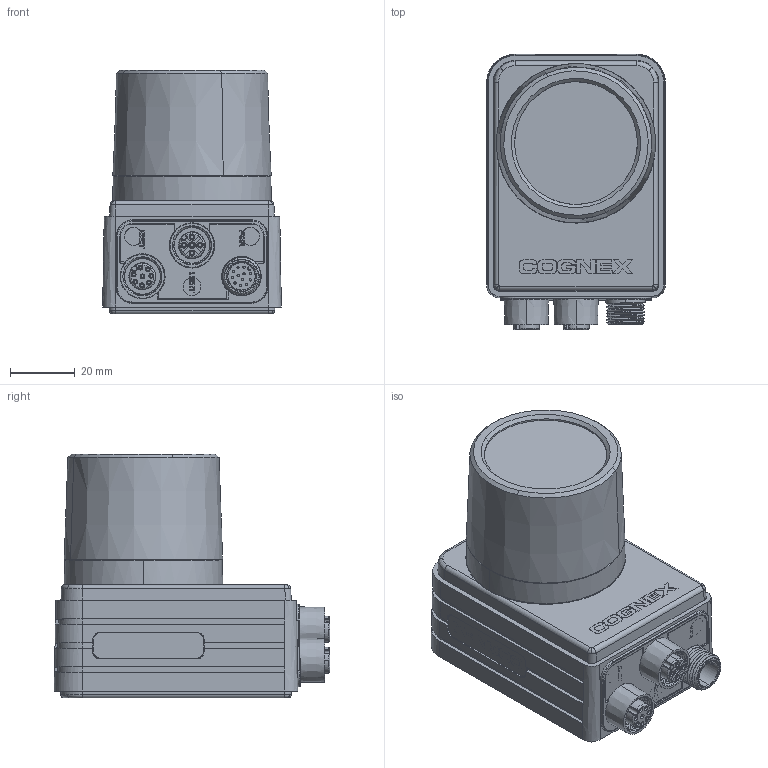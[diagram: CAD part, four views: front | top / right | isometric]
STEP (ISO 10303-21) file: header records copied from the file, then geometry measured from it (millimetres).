
FILE_DESCRIPTION (( 'STEP AP214' ), '1' );
FILE_NAME ('C-MOUNT.STEP', '2011-11-14T18:52:13', ( '' ), ( '' ), 'SwSTEP 2.0', 'SolidWorks 2011', '' );
FILE_SCHEMA (( 'AUTOMOTIVE_DESIGN' ));
Length unit declared in the file: millimetre
Products named in the file (3): Assy, C-Mount Lens Cover, Rogue; Assy, Main, Rogue solid 1; C-MOUNT
Assembly tree (2 placements, depth 2):
  C-MOUNT
    Assy, Main, Rogue solid 1
    Assy, C-Mount Lens Cover, Rogue
Bounding box: 55 x 84.81 x 75 mm (x, y, z)
Volume: 157893.3 mm3; surface area: 62680.6 mm2
Topology: 7 solids, 26 shells, 4331 faces, 10923 edges, 7113 vertices
Faces by surface type: plane 2777, bspline 752, cylinder 534, cone 259, torus 9
Entity records: 235319 total; most frequent: CARTESIAN_POINT 90850, ORIENTED_EDGE 21774, DIRECTION 16122, EDGE_CURVE 10887, LINE 7658, VECTOR 7658, VERTEX_POINT 7113, EDGE_LOOP 4866
